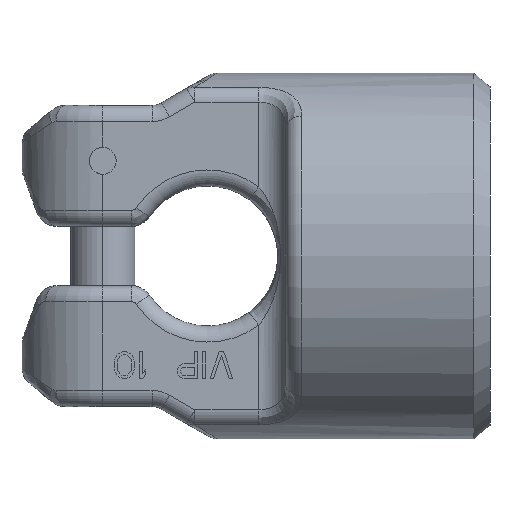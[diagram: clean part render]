
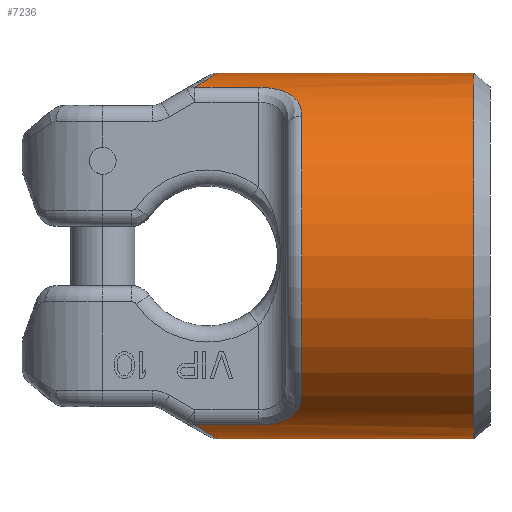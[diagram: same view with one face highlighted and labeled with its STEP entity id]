
A CAD part, front view. The second image highlights one B-rep face of the part: STEP entity #7236.
In plain terms, the highlighted cylindrical face has radius 34 mm (diameter 68 mm), a partial arc.
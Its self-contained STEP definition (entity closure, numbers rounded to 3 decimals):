
#664=DIRECTION('',(1.,0.,0.));
#665=VECTOR('',#664,47.696);
#666=CARTESIAN_POINT('',(36.304,0.,
-34.));
#667=LINE('',#666,#665);
#1113=CARTESIAN_POINT('',(84.,0.,0.));
#1114=DIRECTION('',(1.,0.,0.));
#1115=DIRECTION('',(0.,0.,1.));
#1116=AXIS2_PLACEMENT_3D('',#1113,#1114,#1115);
#1118=CARTESIAN_POINT('',(32.118,-13.161,
-31.349));
#1119=CARTESIAN_POINT('',(32.619,-12.405,
-31.667));
#1120=CARTESIAN_POINT('',(33.516,-10.898,
-32.235));
#1121=CARTESIAN_POINT('',(34.559,-8.696,
-32.895));
#1122=CARTESIAN_POINT('',(35.343,-6.527,
-33.391));
#1123=CARTESIAN_POINT('',(35.893,-4.386,
-33.74));
#1124=CARTESIAN_POINT('',(36.231,-2.186,
-33.954));
#1125=CARTESIAN_POINT('',(36.304,-0.728,
-34.));
#1126=CARTESIAN_POINT('',(36.304,0.,
-34.));
#1128=DIRECTION('',(-1.,0.,0.));
#1129=VECTOR('',#1128,11.882);
#1130=CARTESIAN_POINT('',(44.,-13.161,
-31.349));
#1131=LINE('',#1130,#1129);
#1132=CARTESIAN_POINT('',(52.,-21.935,-25.978));
#1133=CARTESIAN_POINT('',(52.,-21.692,
-26.183));
#1134=CARTESIAN_POINT('',(51.981,-21.215,
-26.574));
#1135=CARTESIAN_POINT('',(51.906,-20.543,
-27.096));
#1136=CARTESIAN_POINT('',(51.789,-19.898,
-27.573));
#1137=CARTESIAN_POINT('',(51.629,-19.269,
-28.016));
#1138=CARTESIAN_POINT('',(51.423,-18.642,
-28.437));
#1139=CARTESIAN_POINT('',(51.164,-18.007,
-28.843));
#1140=CARTESIAN_POINT('',(50.834,-17.355,
-29.24));
#1141=CARTESIAN_POINT('',(50.495,-16.799,
-29.562));
#1142=CARTESIAN_POINT('',(50.112,-16.259,
-29.863));
#1143=CARTESIAN_POINT('',(49.645,-15.703,
-30.158));
#1144=CARTESIAN_POINT('',(49.159,-15.217,
-30.406));
#1145=CARTESIAN_POINT('',(48.644,-14.779,
-30.621));
#1146=CARTESIAN_POINT('',(48.088,-14.381,
-30.81));
#1147=CARTESIAN_POINT('',(47.496,-14.032,
-30.97));
#1148=CARTESIAN_POINT('',(46.875,-13.736,
-31.102));
#1149=CARTESIAN_POINT('',(46.221,-13.495,
-31.208));
#1150=CARTESIAN_POINT('',(45.528,-13.311,
-31.286));
#1151=CARTESIAN_POINT('',(44.793,-13.191,
-31.337));
#1152=CARTESIAN_POINT('',(44.27,-13.161,
-31.349));
#1153=CARTESIAN_POINT('',(44.,-13.161,
-31.349));
#1155=CARTESIAN_POINT('',(52.,0.,0.));
#1156=DIRECTION('',(1.,0.,0.));
#1157=DIRECTION('',(0.,-0.645,0.764));
#1158=AXIS2_PLACEMENT_3D('',#1155,#1156,#1157);
#1160=CARTESIAN_POINT('',(44.,-13.161,31.349));
#1161=CARTESIAN_POINT('',(44.273,-13.161,31.349));
#1162=CARTESIAN_POINT('',(44.802,-13.192,31.337));
#1163=CARTESIAN_POINT('',(45.542,-13.313,31.285));
#1164=CARTESIAN_POINT('',(46.239,-13.5,31.205));
#1165=CARTESIAN_POINT('',(46.897,-13.745,31.098));
#1166=CARTESIAN_POINT('',(47.523,-14.046,30.964));
#1167=CARTESIAN_POINT('',(48.12,-14.402,30.8));
#1168=CARTESIAN_POINT('',(48.678,-14.805,30.608));
#1169=CARTESIAN_POINT('',(49.187,-15.243,30.393));
#1170=CARTESIAN_POINT('',(49.664,-15.725,30.147));
#1171=CARTESIAN_POINT('',(50.122,-16.272,29.855));
#1172=CARTESIAN_POINT('',(50.501,-16.808,29.557));
#1173=CARTESIAN_POINT('',(50.844,-17.373,29.229));
#1174=CARTESIAN_POINT('',(51.171,-18.022,28.834));
#1175=CARTESIAN_POINT('',(51.43,-18.659,28.426));
#1176=CARTESIAN_POINT('',(51.635,-19.289,28.002));
#1177=CARTESIAN_POINT('',(51.793,-19.918,27.559));
#1178=CARTESIAN_POINT('',(51.908,-20.559,27.084));
#1179=CARTESIAN_POINT('',(51.982,-21.223,26.567));
#1180=CARTESIAN_POINT('',(52.,-21.695,26.181));
#1181=CARTESIAN_POINT('',(52.,-21.935,25.978));
#1183=DIRECTION('',(1.,0.,0.));
#1184=VECTOR('',#1183,11.882);
#1185=CARTESIAN_POINT('',(32.118,-13.161,31.349));
#1186=LINE('',#1185,#1184);
#1187=CARTESIAN_POINT('',(36.304,0.,
34.));
#1188=CARTESIAN_POINT('',(36.304,-0.676,
34.));
#1189=CARTESIAN_POINT('',(36.24,-2.046,33.96));
#1190=CARTESIAN_POINT('',(35.939,-4.143,33.769));
#1191=CARTESIAN_POINT('',(35.416,-6.288,33.438));
#1192=CARTESIAN_POINT('',(34.644,-8.498,32.949));
#1193=CARTESIAN_POINT('',(33.563,-10.819,32.264));
#1194=CARTESIAN_POINT('',(32.636,-12.379,31.678));
#1195=CARTESIAN_POINT('',(32.118,-13.161,31.349));
#1197=DIRECTION('',(1.,0.,0.));
#1198=VECTOR('',#1197,47.696);
#1199=CARTESIAN_POINT('',(36.304,0.,
34.));
#1200=LINE('',#1199,#1198);
#4947=CARTESIAN_POINT('',(36.304,0.,34.));
#4949=VERTEX_POINT('',#4947);
#4951=CARTESIAN_POINT('',(36.304,0.,
-34.));
#4953=VERTEX_POINT('',#4951);
#4957=VERTEX_POINT('',#1160);
#4958=VERTEX_POINT('',#1181);
#4959=CARTESIAN_POINT('',(32.118,-13.161,31.349));
#4960=VERTEX_POINT('',#4959);
#4983=VERTEX_POINT('',#1132);
#4984=VERTEX_POINT('',#1153);
#4989=CARTESIAN_POINT('',(32.118,-13.161,
-31.349));
#4990=VERTEX_POINT('',#4989);
#6021=CARTESIAN_POINT('',(84.,0.,-34.));
#6022=CARTESIAN_POINT('',(84.,0.,34.));
#6023=VERTEX_POINT('',#6021);
#6024=VERTEX_POINT('',#6022);
#7212=CARTESIAN_POINT('',(0.,0.,0.));
#7213=DIRECTION('',(1.,0.,0.));
#7214=DIRECTION('',(0.,0.,-1.));
#7215=AXIS2_PLACEMENT_3D('',#7212,#7213,#7214);
#7216=CYLINDRICAL_SURFACE('',#7215,34.);
#7217=ORIENTED_EDGE('',*,*,#6045,.T.);
#7218=ORIENTED_EDGE('',*,*,#6087,.F.);
#7220=ORIENTED_EDGE('',*,*,#7219,.F.);
#7222=ORIENTED_EDGE('',*,*,#7221,.F.);
#7224=ORIENTED_EDGE('',*,*,#7223,.F.);
#7226=ORIENTED_EDGE('',*,*,#7225,.F.);
#7228=ORIENTED_EDGE('',*,*,#7227,.F.);
#7230=ORIENTED_EDGE('',*,*,#7229,.F.);
#7232=ORIENTED_EDGE('',*,*,#7231,.F.);
#7233=ORIENTED_EDGE('',*,*,#6071,.T.);
#7234=EDGE_LOOP('',(#7217,#7218,#7220,#7222,#7224,#7226,#7228,#7230,#7232,
#7233));
#7235=FACE_OUTER_BOUND('',#7234,.F.);
#7236=ADVANCED_FACE('',(#7235),#7216,.T.);
#1117=CIRCLE('',#1116,34.);
#1127=B_SPLINE_CURVE_WITH_KNOTS('',3,(#1118,#1119,#1120,#1121,#1122,#1123,#1124,
#1125,#1126),.UNSPECIFIED.,.F.,.F.,(4,1,1,1,1,1,4),(0.,0.167,
0.333,0.5,0.667,0.833,1.),
.UNSPECIFIED.);
#1154=B_SPLINE_CURVE_WITH_KNOTS('',3,(#1132,#1133,#1134,#1135,#1136,#1137,#1138,
#1139,#1140,#1141,#1142,#1143,#1144,#1145,#1146,#1147,#1148,#1149,#1150,#1151,
#1152,#1153),.UNSPECIFIED.,.F.,.F.,(4,1,1,1,1,1,1,1,1,1,1,1,1,1,1,1,1,1,1,4),(
0.,0.053,0.105,0.158,0.211,
0.263,0.316,0.368,0.421,
0.474,0.526,0.579,0.632,
0.684,0.737,0.789,0.842,
0.895,0.947,1.),.UNSPECIFIED.);
#1159=CIRCLE('',#1158,34.);
#1182=B_SPLINE_CURVE_WITH_KNOTS('',3,(#1160,#1161,#1162,#1163,#1164,#1165,#1166,
#1167,#1168,#1169,#1170,#1171,#1172,#1173,#1174,#1175,#1176,#1177,#1178,#1179,
#1180,#1181),.UNSPECIFIED.,.F.,.F.,(4,1,1,1,1,1,1,1,1,1,1,1,1,1,1,1,1,1,1,4),(
0.,0.053,0.105,0.158,0.211,
0.263,0.316,0.368,0.421,
0.474,0.526,0.579,0.632,
0.684,0.737,0.789,0.842,
0.895,0.947,1.),.UNSPECIFIED.);
#1196=B_SPLINE_CURVE_WITH_KNOTS('',3,(#1187,#1188,#1189,#1190,#1191,#1192,#1193,
#1194,#1195),.UNSPECIFIED.,.F.,.F.,(4,1,1,1,1,1,4),(0.,0.167,
0.333,0.5,0.667,0.833,1.),
.UNSPECIFIED.);
#6045=EDGE_CURVE('',#6024,#6023,#1117,.T.);
#6071=EDGE_CURVE('',#4949,#6024,#1200,.T.);
#6087=EDGE_CURVE('',#4953,#6023,#667,.T.);
#7219=EDGE_CURVE('',#4990,#4953,#1127,.T.);
#7221=EDGE_CURVE('',#4984,#4990,#1131,.T.);
#7223=EDGE_CURVE('',#4983,#4984,#1154,.T.);
#7225=EDGE_CURVE('',#4958,#4983,#1159,.T.);
#7227=EDGE_CURVE('',#4957,#4958,#1182,.T.);
#7229=EDGE_CURVE('',#4960,#4957,#1186,.T.);
#7231=EDGE_CURVE('',#4949,#4960,#1196,.T.);
